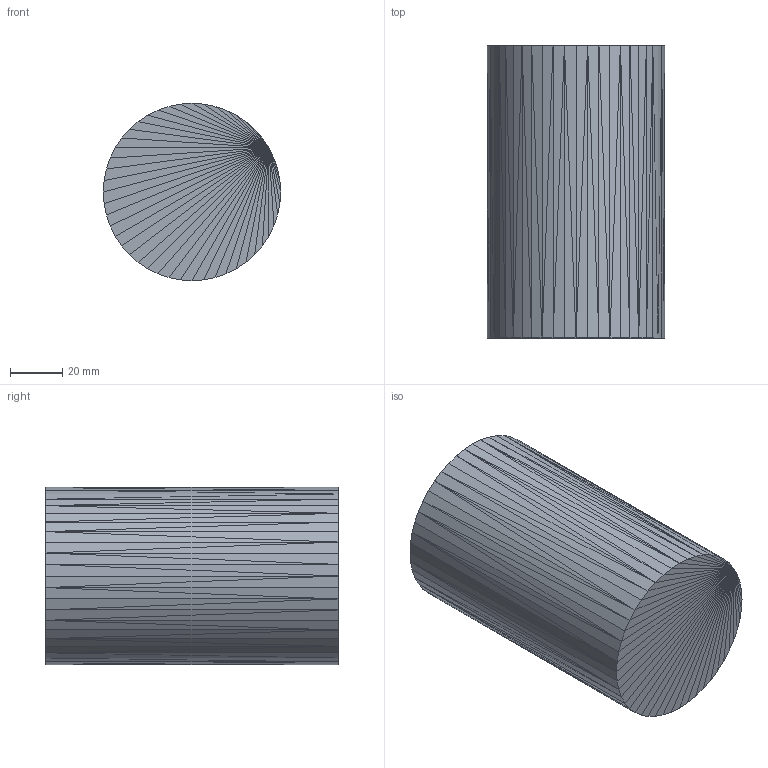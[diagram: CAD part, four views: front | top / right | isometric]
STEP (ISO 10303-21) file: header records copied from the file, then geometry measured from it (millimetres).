
FILE_DESCRIPTION(('Open CASCADE Model'),'2;1');
FILE_NAME('Open CASCADE Shape Model','2026-07-28T00:00:00+00:00',( 'Author'),('Open CASCADE'),'Open CASCADE STEP processor 7.8', 'build123d','Unknown');
FILE_SCHEMA(('AUTOMOTIVE_DESIGN { 1 0 10303 214 1 1 1 1 }'));
Length unit declared in the file: millimetre
Products named in the file (1): SOLID
Bounding box: 68 x 112 x 68 mm (x, y, z)
Volume: 405587.7 mm3; surface area: 31151.9 mm2
Topology: 1 solids, 1 shells, 188 faces, 282 edges, 96 vertices
Faces by surface type: plane 188
Entity records: 7072 total; most frequent: CARTESIAN_POINT 1413, DIRECTION 942, ORIENTED_EDGE 564, LINE 564, VECTOR 564, PCURVE 564, DEFINITIONAL_REPRESENTATION 564, EDGE_CURVE 282
